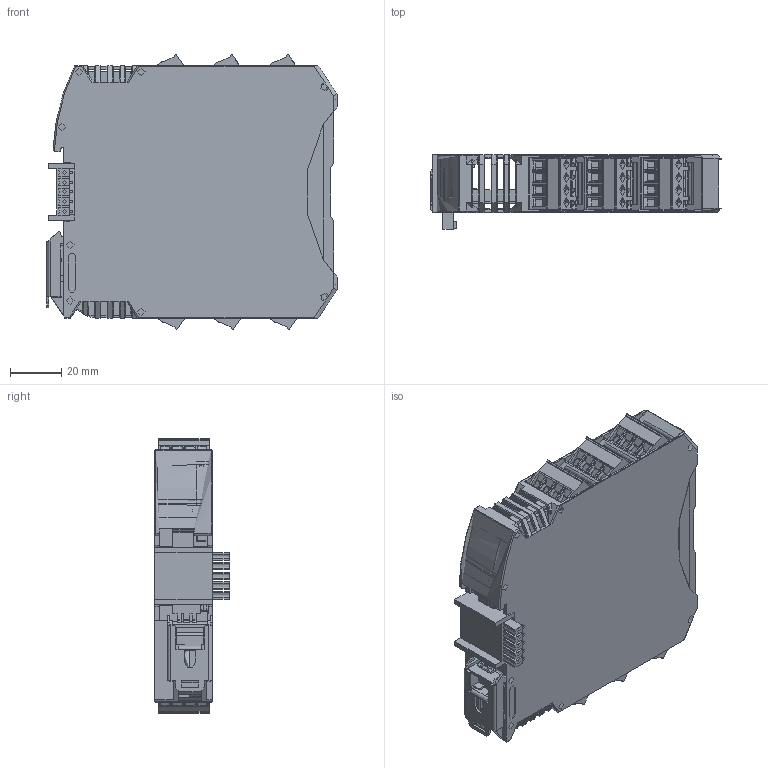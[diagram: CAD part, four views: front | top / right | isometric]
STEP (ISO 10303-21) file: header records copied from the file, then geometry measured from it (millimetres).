
FILE_DESCRIPTION(('STEP AP214'), '1');
FILE_NAME('NLS-SPE-Ethernet-PoE â ñòåïêóóóóóóóóóóóóóóóóóóóóóóóó', '', ('UNSPECIFIED'), ('UNSPECIFIED'), 'C3D Converter', 'C3D Toolkit', '');
FILE_SCHEMA(('AUTOMOTIVE_DESIGN { 1 0 10303 214 3 1 1}'));
Length unit declared in the file: millimetre
Bounding box: 113.65 x 29.21 x 107.64 mm (x, y, z)
Topology: 10 solids, 45 shells, 7580 faces, 21662 edges, 14265 vertices
Faces by surface type: plane 5226, extrusion 1159, cylinder 1062, cone 72, bspline 33, torus 15, revolution 9, sphere 4
Full cylindrical faces by diameter (mm): 1.4 x28, 1.6 x11, 2.2 x6, 2.8 x29, 3 x16, 3.796 x24, 4 x24, 4.5 x1
Entity records: 322284 total; most frequent: CARTESIAN_POINT 69556, ORIENTED_EDGE 42982, DIRECTION 33964, EDGE_CURVE 21491, VECTOR 17153, LINE 15994, VERTEX_POINT 14265, AXIS2_PLACEMENT_3D 8401
